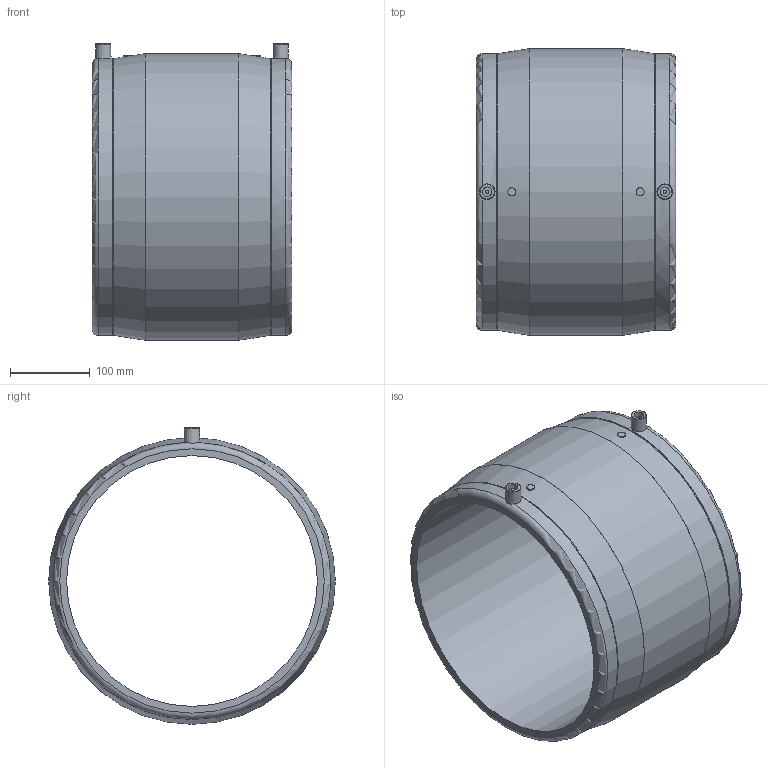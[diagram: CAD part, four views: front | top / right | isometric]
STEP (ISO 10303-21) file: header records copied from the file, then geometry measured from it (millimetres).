
FILE_DESCRIPTION(/* description */ ('Unknown'),/* implementation_level */ '2;1');
FILE_NAME(/* name */ 'MP315A',/* time_stamp */ '2021-05-06T08:53:41+02:00',/* author */ ('Unknown'),/* organization */ ('Unknown'),/* preprocessor_version */ 'ST-DEVELOPER v16.7',/* originating_system */ 'Solid Edge',/* authorisation */ 'Unknown');
FILE_SCHEMA (('AUTOMOTIVE_DESIGN {1 0 10303 214 3 1 1}'));
Length unit declared in the file: millimetre
Products named in the file (1): MP315A
Bounding box: 251 x 360 x 372.5 mm (x, y, z)
Volume: 5321792.1 mm3; surface area: 560441 mm2
Topology: 1 solids, 1 shells, 36 faces, 81 edges, 52 vertices
Faces by surface type: plane 12, torus 10, cylinder 10, cone 4
Full cylindrical faces by diameter (mm): 4 x2, 10 x2, 12 x2, 315 x1, 348 x2, 360 x1
Entity records: 820 total; most frequent: CARTESIAN_POINT 175, DIRECTION 138, ORIENTED_EDGE 80, AXIS2_PLACEMENT_3D 69, EDGE_LOOP 68, FACE_BOUND 68, EDGE_CURVE 40, VERTEX_POINT 36
